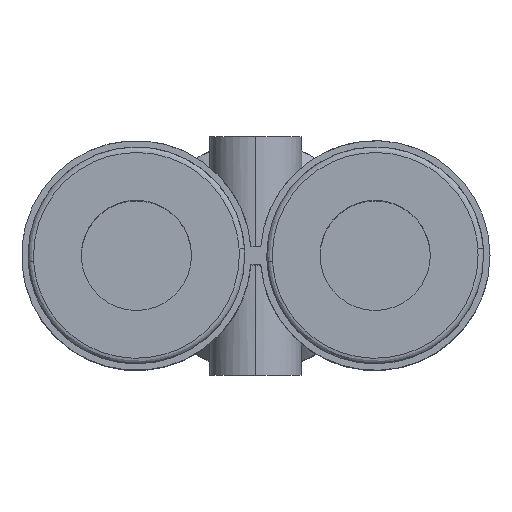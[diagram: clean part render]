
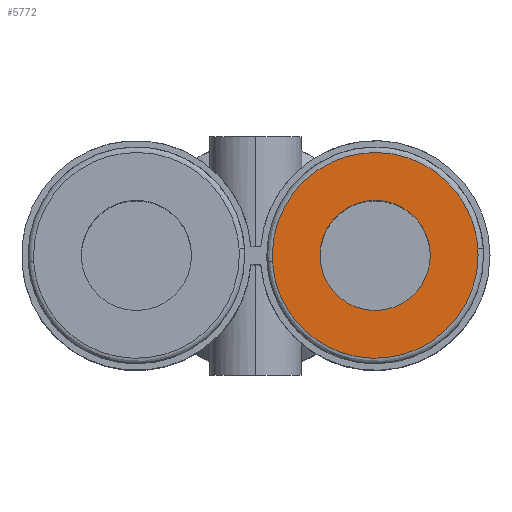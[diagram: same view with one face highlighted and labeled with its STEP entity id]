
A CAD part, top view. The second image highlights one B-rep face of the part: STEP entity #5772.
In plain terms, the highlighted planar face has unit normal (0, 0, 1).
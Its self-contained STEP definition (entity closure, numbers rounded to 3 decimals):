
#4 = CARTESIAN_POINT ( 'NONE',  ( 6.5, 0., 19.25 ) ) ;
#69 = CARTESIAN_POINT ( 'NONE',  ( 0.9, -0.115, 19.25 ) ) ;
#219 =( BOUNDED_CURVE ( )  B_SPLINE_CURVE ( 3, ( #315, #5373, #5396, #5877 ),
 .UNSPECIFIED., .F., .T. ) 
 B_SPLINE_CURVE_WITH_KNOTS ( ( 4, 4 ),
 ( 0., 0.98 ),
 .UNSPECIFIED. ) 
 CURVE ( )  GEOMETRIC_REPRESENTATION_ITEM ( )  RATIONAL_B_SPLINE_CURVE ( ( 1., 0.354, 0.354, 1. ) ) 
 REPRESENTATION_ITEM ( '' )  );
#315 = CARTESIAN_POINT ( 'NONE',  ( 0.9, 0., 19.25 ) ) ;
#430 = DIRECTION ( 'NONE',  ( -1., 0., 0. ) ) ;
#664 = VERTEX_POINT ( 'NONE', #4434 ) ;
#724 = CARTESIAN_POINT ( 'NONE',  ( 12.1, 0., 19.25 ) ) ;
#903 = DIRECTION ( 'NONE',  ( 1., 0., 0. ) ) ;
#970 = EDGE_CURVE ( 'NONE', #4853, #5343, #2563, .T. ) ;
#1198 = CARTESIAN_POINT ( 'NONE',  ( 12.089, 0.346, 19.25 ) ) ;
#1319 = PLANE ( 'NONE',  #4268 ) ;
#1707 = CIRCLE ( 'NONE', #4715, 3. ) ;
#1798 = AXIS2_PLACEMENT_3D ( 'NONE', #4191, #4652, #2332 ) ;
#1827 = FACE_BOUND ( 'NONE', #2756, .T. ) ;
#1900 = CARTESIAN_POINT ( 'NONE',  ( 12.089, 0.346, 19.25 ) ) ;
#1929 = CARTESIAN_POINT ( 'NONE',  ( 0.9, 0., 19.25 ) ) ;
#2217 = ORIENTED_EDGE ( 'NONE', *, *, #970, .F. ) ;
#2329 = CARTESIAN_POINT ( 'NONE',  ( 12.1, 0., 19.25 ) ) ;
#2332 = DIRECTION ( 'NONE',  ( -1., 0., 0. ) ) ;
#2372 = CARTESIAN_POINT ( 'NONE',  ( 0.911, -0.346, 19.25 ) ) ;
#2440 = CARTESIAN_POINT ( 'NONE',  ( 0.904, -0.231, 19.25 ) ) ;
#2560 = VERTEX_POINT ( 'NONE', #1900 ) ;
#2563 =( BOUNDED_CURVE ( )  B_SPLINE_CURVE ( 3, ( #724, #4970, #4851, #3934 ),
 .UNSPECIFIED., .F., .T. ) 
 B_SPLINE_CURVE_WITH_KNOTS ( ( 4, 4 ),
 ( 0., 0.98 ),
 .UNSPECIFIED. ) 
 CURVE ( )  GEOMETRIC_REPRESENTATION_ITEM ( )  RATIONAL_B_SPLINE_CURVE ( ( 1., 0.354, 0.354, 1. ) ) 
 REPRESENTATION_ITEM ( '' )  );
#2599 = VERTEX_POINT ( 'NONE', #1929 ) ;
#2711 = CARTESIAN_POINT ( 'NONE',  ( 12.6, 6.1, 19.25 ) ) ;
#2737 = CARTESIAN_POINT ( 'NONE',  ( 9.5, 0., 19.25 ) ) ;
#2756 = EDGE_LOOP ( 'NONE', ( #4443, #3729 ) ) ;
#3157 = EDGE_CURVE ( 'NONE', #4439, #664, #1707, .T. ) ;
#3171 = DIRECTION ( 'NONE',  ( 0., 0., 1. ) ) ;
#3416 = EDGE_CURVE ( 'NONE', #2599, #2560, #219, .T. ) ;
#3475 = CARTESIAN_POINT ( 'NONE',  ( 12.1, 0., 19.25 ) ) ;
#3523 = EDGE_CURVE ( 'NONE', #664, #4439, #4431, .T. ) ;
#3531 = CARTESIAN_POINT ( 'NONE',  ( 12.096, 0.231, 19.25 ) ) ;
#3549 =( BOUNDED_CURVE ( )  B_SPLINE_CURVE ( 3, ( #1198, #3531, #3585, #3475 ),
 .UNSPECIFIED., .F., .F. ) 
 B_SPLINE_CURVE_WITH_KNOTS ( ( 4, 4 ),
 ( 0.98, 1. ),
 .UNSPECIFIED. ) 
 CURVE ( )  GEOMETRIC_REPRESENTATION_ITEM ( )  RATIONAL_B_SPLINE_CURVE ( ( 1., 1., 1., 1. ) ) 
 REPRESENTATION_ITEM ( '' )  );
#3585 = CARTESIAN_POINT ( 'NONE',  ( 12.1, 0.115, 19.25 ) ) ;
#3618 = ORIENTED_EDGE ( 'NONE', *, *, #4598, .F. ) ;
#3729 = ORIENTED_EDGE ( 'NONE', *, *, #3157, .T. ) ;
#3934 = CARTESIAN_POINT ( 'NONE',  ( 0.911, -0.346, 19.25 ) ) ;
#4172 = FACE_OUTER_BOUND ( 'NONE', #5120, .T. ) ;
#4191 = CARTESIAN_POINT ( 'NONE',  ( 6.5, 0., 19.25 ) ) ;
#4202 =( BOUNDED_CURVE ( )  B_SPLINE_CURVE ( 3, ( #2372, #2440, #69, #4632 ),
 .UNSPECIFIED., .F., .T. ) 
 B_SPLINE_CURVE_WITH_KNOTS ( ( 4, 4 ),
 ( 0.98, 1. ),
 .UNSPECIFIED. ) 
 CURVE ( )  GEOMETRIC_REPRESENTATION_ITEM ( )  RATIONAL_B_SPLINE_CURVE ( ( 1., 1., 1., 1. ) ) 
 REPRESENTATION_ITEM ( '' )  );
#4268 = AXIS2_PLACEMENT_3D ( 'NONE', #2711, #3171, #903 ) ;
#4322 = ORIENTED_EDGE ( 'NONE', *, *, #5652, .F. ) ;
#4431 = CIRCLE ( 'NONE', #1798, 3. ) ;
#4434 = CARTESIAN_POINT ( 'NONE',  ( 3.5, 0., 19.25 ) ) ;
#4439 = VERTEX_POINT ( 'NONE', #2737 ) ;
#4443 = ORIENTED_EDGE ( 'NONE', *, *, #3523, .T. ) ;
#4466 = ORIENTED_EDGE ( 'NONE', *, *, #3416, .F. ) ;
#4594 = DIRECTION ( 'NONE',  ( 0., 0., -1. ) ) ;
#4598 = EDGE_CURVE ( 'NONE', #2560, #4853, #3549, .T. ) ;
#4632 = CARTESIAN_POINT ( 'NONE',  ( 0.9, 0., 19.25 ) ) ;
#4652 = DIRECTION ( 'NONE',  ( 0., 0., -1. ) ) ;
#4715 = AXIS2_PLACEMENT_3D ( 'NONE', #4, #4594, #430 ) ;
#4851 = CARTESIAN_POINT ( 'NONE',  ( 1.562, -10.869, 19.25 ) ) ;
#4853 = VERTEX_POINT ( 'NONE', #2329 ) ;
#4970 = CARTESIAN_POINT ( 'NONE',  ( 12.1, -10.543, 19.25 ) ) ;
#5120 = EDGE_LOOP ( 'NONE', ( #2217, #3618, #4466, #4322 ) ) ;
#5343 = VERTEX_POINT ( 'NONE', #5353 ) ;
#5353 = CARTESIAN_POINT ( 'NONE',  ( 0.911, -0.346, 19.25 ) ) ;
#5373 = CARTESIAN_POINT ( 'NONE',  ( 0.9, 10.543, 19.25 ) ) ;
#5396 = CARTESIAN_POINT ( 'NONE',  ( 11.438, 10.869, 19.25 ) ) ;
#5652 = EDGE_CURVE ( 'NONE', #5343, #2599, #4202, .T. ) ;
#5772 = ADVANCED_FACE ( '107', ( #1827, #4172 ), #1319, .T. ) ;
#5877 = CARTESIAN_POINT ( 'NONE',  ( 12.089, 0.346, 19.25 ) ) ;
